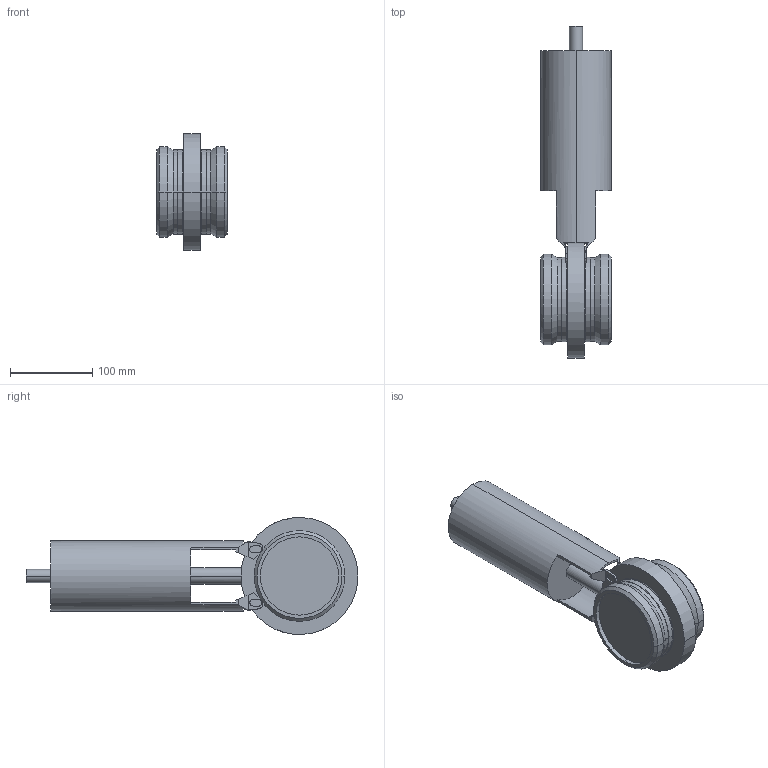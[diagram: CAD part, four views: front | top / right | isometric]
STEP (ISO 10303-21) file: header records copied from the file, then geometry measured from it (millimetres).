
FILE_DESCRIPTION(('Creo Elements/Direct Modeling STEP Export'),'2;1');
FILE_NAME('SV1-80-FZ-12G.stp','2015-08-10T11:18:40',(''),(''),'Creo Elements/Direct Modeling STEP processor for AP214 (Solid Model)','Creo Elements/Direct Modeling 17.0D 15-Jul-2011 (C) Parametric Technology GmbH','');
FILE_SCHEMA(('AUTOMOTIVE_DESIGN { 1 0 10303 214 1 1 1 1 }'));
Length unit declared in the file: millimetre
Products named in the file (3): SV1-80-12G; Luftanschluß; SV1-80-FZ-12G
Assembly tree (2 placements, depth 2):
  SV1-80-FZ-12G
    Luftanschluß
    SV1-80-12G
Bounding box: 86 x 402.93 x 141.81 mm (x, y, z)
Volume: 1837215.9 mm3; surface area: 145292.1 mm2
Topology: 2 solids, 2 shells, 128 faces, 331 edges, 208 vertices
Faces by surface type: plane 74, cylinder 38, cone 12, torus 4
Entity records: 3748 total; most frequent: CARTESIAN_POINT 664, ORIENTED_EDGE 662, DIRECTION 605, EDGE_CURVE 331, VERTEX_POINT 208, AXIS2_PLACEMENT_3D 205, VECTOR 195, LINE 195
